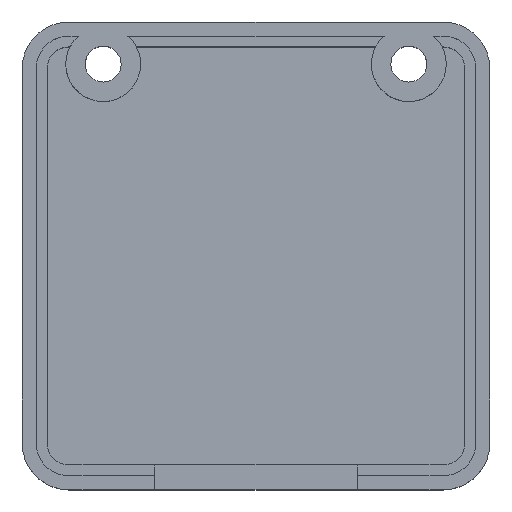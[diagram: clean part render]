
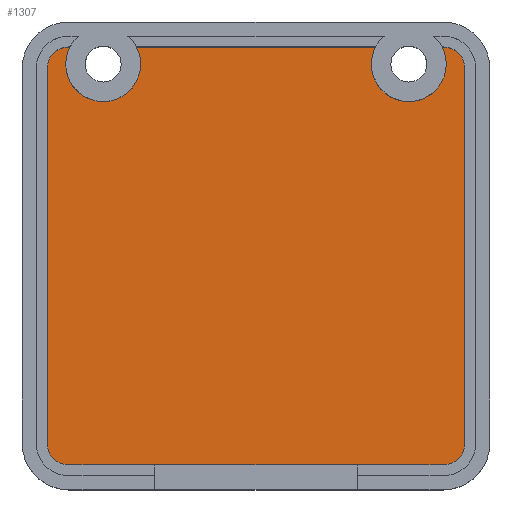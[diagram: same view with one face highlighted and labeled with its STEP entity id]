
A CAD part, top view. The second image highlights one B-rep face of the part: STEP entity #1307.
In plain terms, the highlighted planar face has unit normal (0, 0, 1).
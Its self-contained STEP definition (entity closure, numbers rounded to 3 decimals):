
#750 = VERTEX_POINT('',#751);
#751 = CARTESIAN_POINT('',(22.667,28.4,1.6));
#785 = VERTEX_POINT('',#786);
#786 = CARTESIAN_POINT('',(26.933,28.4,1.6));
#792 = EDGE_CURVE('',#785,#793,#795,.T.);
#793 = VERTEX_POINT('',#794);
#794 = CARTESIAN_POINT('',(27.2,27.3,1.6));
#795 = CIRCLE('',#796,2.4);
#796 = AXIS2_PLACEMENT_3D('',#797,#798,#799);
#797 = CARTESIAN_POINT('',(24.8,27.3,1.6));
#798 = DIRECTION('',(0.,0.,-1.));
#799 = DIRECTION('',(1.,0.,0.));
#801 = EDGE_CURVE('',#793,#750,#802,.T.);
#802 = CIRCLE('',#803,2.4);
#803 = AXIS2_PLACEMENT_3D('',#804,#805,#806);
#804 = CARTESIAN_POINT('',(24.8,27.3,1.6));
#805 = DIRECTION('',(0.,0.,-1.));
#806 = DIRECTION('',(1.,0.,0.));
#851 = VERTEX_POINT('',#852);
#852 = CARTESIAN_POINT('',(7.333,28.4,1.6));
#858 = EDGE_CURVE('',#851,#859,#861,.T.);
#859 = VERTEX_POINT('',#860);
#860 = CARTESIAN_POINT('',(7.6,27.3,1.6));
#861 = CIRCLE('',#862,2.4);
#862 = AXIS2_PLACEMENT_3D('',#863,#864,#865);
#863 = CARTESIAN_POINT('',(5.2,27.3,1.6));
#864 = DIRECTION('',(0.,0.,-1.));
#865 = DIRECTION('',(1.,0.,0.));
#867 = EDGE_CURVE('',#859,#868,#870,.T.);
#868 = VERTEX_POINT('',#869);
#869 = CARTESIAN_POINT('',(3.067,28.4,1.6));
#870 = CIRCLE('',#871,2.4);
#871 = AXIS2_PLACEMENT_3D('',#872,#873,#874);
#872 = CARTESIAN_POINT('',(5.2,27.3,1.6));
#873 = DIRECTION('',(0.,0.,-1.));
#874 = DIRECTION('',(1.,0.,0.));
#1163 = EDGE_CURVE('',#1164,#1166,#1168,.T.);
#1164 = VERTEX_POINT('',#1165);
#1165 = CARTESIAN_POINT('',(3.,1.6,1.6));
#1166 = VERTEX_POINT('',#1167);
#1167 = CARTESIAN_POINT('',(27.,1.6,1.6));
#1168 = LINE('',#1169,#1170);
#1169 = CARTESIAN_POINT('',(3.,1.6,1.6));
#1170 = VECTOR('',#1171,1.);
#1171 = DIRECTION('',(1.,0.,0.));
#1253 = EDGE_CURVE('',#851,#750,#1254,.T.);
#1254 = LINE('',#1255,#1256);
#1255 = CARTESIAN_POINT('',(3.,28.4,1.6));
#1256 = VECTOR('',#1257,1.);
#1257 = DIRECTION('',(1.,0.,0.));
#1287 = EDGE_CURVE('',#785,#1288,#1290,.T.);
#1288 = VERTEX_POINT('',#1289);
#1289 = CARTESIAN_POINT('',(27.,28.4,1.6));
#1290 = LINE('',#1291,#1292);
#1291 = CARTESIAN_POINT('',(3.,28.4,1.6));
#1292 = VECTOR('',#1293,1.);
#1293 = DIRECTION('',(1.,0.,0.));
#1307 = ADVANCED_FACE('',(#1308),#1373,.F.);
#1308 = FACE_BOUND('',#1309,.F.);
#1309 = EDGE_LOOP('',(#1310,#1319,#1327,#1336,#1342,#1343,#1344,#1345,
    #1346,#1347,#1348,#1357,#1365,#1372));
#1310 = ORIENTED_EDGE('',*,*,#1311,.F.);
#1311 = EDGE_CURVE('',#1312,#1164,#1314,.T.);
#1312 = VERTEX_POINT('',#1313);
#1313 = CARTESIAN_POINT('',(1.6,3.,1.6));
#1314 = CIRCLE('',#1315,1.4);
#1315 = AXIS2_PLACEMENT_3D('',#1316,#1317,#1318);
#1316 = CARTESIAN_POINT('',(3.,3.,1.6));
#1317 = DIRECTION('',(0.,0.,1.));
#1318 = DIRECTION('',(1.,0.,0.));
#1319 = ORIENTED_EDGE('',*,*,#1320,.T.);
#1320 = EDGE_CURVE('',#1312,#1321,#1323,.T.);
#1321 = VERTEX_POINT('',#1322);
#1322 = CARTESIAN_POINT('',(1.6,27.,1.6));
#1323 = LINE('',#1324,#1325);
#1324 = CARTESIAN_POINT('',(1.6,3.,1.6));
#1325 = VECTOR('',#1326,1.);
#1326 = DIRECTION('',(0.,1.,0.));
#1327 = ORIENTED_EDGE('',*,*,#1328,.F.);
#1328 = EDGE_CURVE('',#1329,#1321,#1331,.T.);
#1329 = VERTEX_POINT('',#1330);
#1330 = CARTESIAN_POINT('',(3.,28.4,1.6));
#1331 = CIRCLE('',#1332,1.4);
#1332 = AXIS2_PLACEMENT_3D('',#1333,#1334,#1335);
#1333 = CARTESIAN_POINT('',(3.,27.,1.6));
#1334 = DIRECTION('',(0.,0.,1.));
#1335 = DIRECTION('',(1.,0.,0.));
#1336 = ORIENTED_EDGE('',*,*,#1337,.T.);
#1337 = EDGE_CURVE('',#1329,#868,#1338,.T.);
#1338 = LINE('',#1339,#1340);
#1339 = CARTESIAN_POINT('',(3.,28.4,1.6));
#1340 = VECTOR('',#1341,1.);
#1341 = DIRECTION('',(1.,0.,0.));
#1342 = ORIENTED_EDGE('',*,*,#867,.F.);
#1343 = ORIENTED_EDGE('',*,*,#858,.F.);
#1344 = ORIENTED_EDGE('',*,*,#1253,.T.);
#1345 = ORIENTED_EDGE('',*,*,#801,.F.);
#1346 = ORIENTED_EDGE('',*,*,#792,.F.);
#1347 = ORIENTED_EDGE('',*,*,#1287,.T.);
#1348 = ORIENTED_EDGE('',*,*,#1349,.F.);
#1349 = EDGE_CURVE('',#1350,#1288,#1352,.T.);
#1350 = VERTEX_POINT('',#1351);
#1351 = CARTESIAN_POINT('',(28.4,27.,1.6));
#1352 = CIRCLE('',#1353,1.4);
#1353 = AXIS2_PLACEMENT_3D('',#1354,#1355,#1356);
#1354 = CARTESIAN_POINT('',(27.,27.,1.6));
#1355 = DIRECTION('',(0.,0.,1.));
#1356 = DIRECTION('',(1.,0.,0.));
#1357 = ORIENTED_EDGE('',*,*,#1358,.F.);
#1358 = EDGE_CURVE('',#1359,#1350,#1361,.T.);
#1359 = VERTEX_POINT('',#1360);
#1360 = CARTESIAN_POINT('',(28.4,3.,1.6));
#1361 = LINE('',#1362,#1363);
#1362 = CARTESIAN_POINT('',(28.4,3.,1.6));
#1363 = VECTOR('',#1364,1.);
#1364 = DIRECTION('',(0.,1.,0.));
#1365 = ORIENTED_EDGE('',*,*,#1366,.F.);
#1366 = EDGE_CURVE('',#1166,#1359,#1367,.T.);
#1367 = CIRCLE('',#1368,1.4);
#1368 = AXIS2_PLACEMENT_3D('',#1369,#1370,#1371);
#1369 = CARTESIAN_POINT('',(27.,3.,1.6));
#1370 = DIRECTION('',(0.,0.,1.));
#1371 = DIRECTION('',(1.,0.,0.));
#1372 = ORIENTED_EDGE('',*,*,#1163,.F.);
#1373 = PLANE('',#1374);
#1374 = AXIS2_PLACEMENT_3D('',#1375,#1376,#1377);
#1375 = CARTESIAN_POINT('',(15.,15.,1.6));
#1376 = DIRECTION('',(-0.,-0.,-1.));
#1377 = DIRECTION('',(-1.,0.,0.));
